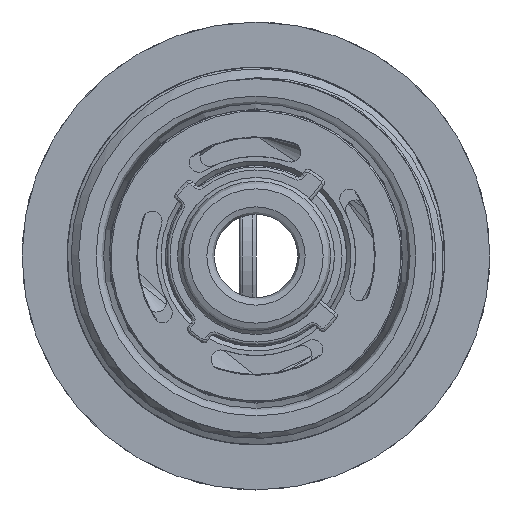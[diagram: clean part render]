
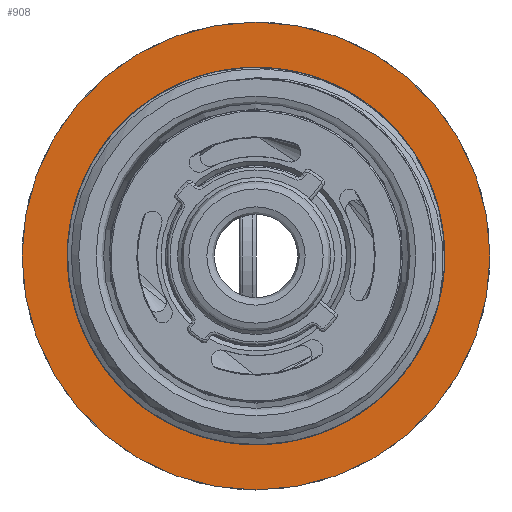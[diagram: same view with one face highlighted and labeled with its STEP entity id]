
A CAD part, left-side view. The second image highlights one B-rep face of the part: STEP entity #908.
In plain terms, the highlighted planar face has unit normal (-1, 0, 0).
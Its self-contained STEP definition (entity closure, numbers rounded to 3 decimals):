
#908 = ADVANCED_FACE( '', ( #2055, #2056 ), #2057, .F. );
#2055 = FACE_BOUND( '', #3834, .T. );
#2056 = FACE_OUTER_BOUND( '', #3835, .T. );
#2057 = PLANE( '', #3836 );
#3834 = EDGE_LOOP( '', ( #7313 ) );
#3835 = EDGE_LOOP( '', ( #7314 ) );
#3836 = AXIS2_PLACEMENT_3D( '', #7315, #7316, #7317 );
#7313 = ORIENTED_EDGE( '', *, *, #8979, .F. );
#7314 = ORIENTED_EDGE( '', *, *, #9634, .T. );
#7315 = CARTESIAN_POINT( '', ( -38.75, 0., 11.25 ) );
#7316 = DIRECTION( '', ( 1., 0., 0. ) );
#7317 = DIRECTION( '', ( 0., 0., -1. ) );
#8979 = EDGE_CURVE( '', #10286, #10286, #10287, .T. );
#9634 = EDGE_CURVE( '', #11302, #11302, #11303, .T. );
#10286 = VERTEX_POINT( '', #12323 );
#10287 = CIRCLE( '', #12324, 11.25 );
#11302 = VERTEX_POINT( '', #14055 );
#11303 = CIRCLE( '', #14056, 15.5 );
#12323 = CARTESIAN_POINT( '', ( -38.75, 0., 11.25 ) );
#12324 = AXIS2_PLACEMENT_3D( '', #15113, #15114, #15115 );
#14055 = CARTESIAN_POINT( '', ( -38.75, 0., 15.5 ) );
#14056 = AXIS2_PLACEMENT_3D( '', #16122, #16123, #16124 );
#15113 = CARTESIAN_POINT( '', ( -38.75, 0., 0. ) );
#15114 = DIRECTION( '', ( -1., 0., 0. ) );
#15115 = DIRECTION( '', ( 0., 0., 1. ) );
#16122 = CARTESIAN_POINT( '', ( -38.75, 0., 0. ) );
#16123 = DIRECTION( '', ( -1., 0., 0. ) );
#16124 = DIRECTION( '', ( 0., 0., 1. ) );
